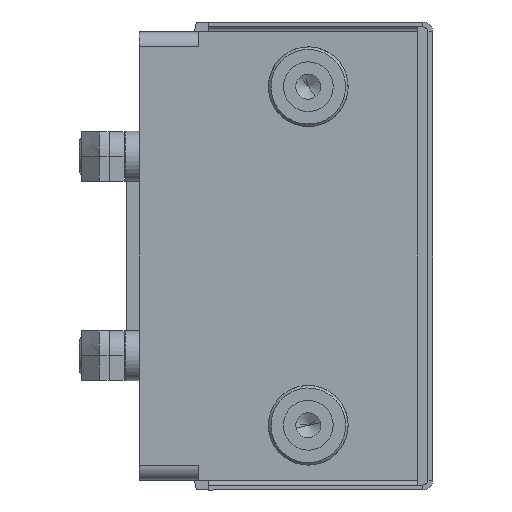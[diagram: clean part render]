
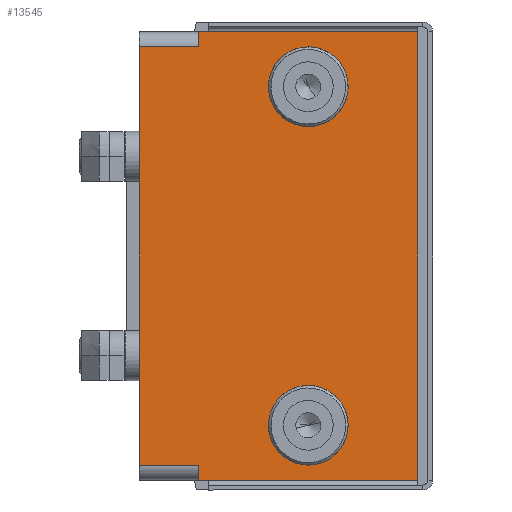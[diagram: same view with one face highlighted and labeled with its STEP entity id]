
A CAD part, front view. The second image highlights one B-rep face of the part: STEP entity #13545.
In plain terms, the highlighted planar face has unit normal (0, -1, 0).
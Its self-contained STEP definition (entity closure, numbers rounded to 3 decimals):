
#16 = DIRECTION ( 'NONE',  ( 0., -1., 0. ) ) ;
#414 = EDGE_CURVE ( 'NONE', #2588, #12712, #8567, .T. ) ;
#461 = CARTESIAN_POINT ( 'NONE',  ( 34., -49.4, 41.615 ) ) ;
#937 = DIRECTION ( 'NONE',  ( 0., 0., 1. ) ) ;
#1130 = CARTESIAN_POINT ( 'NONE',  ( 12., -49.4, 41.615 ) ) ;
#1143 = DIRECTION ( 'NONE',  ( -1., 0., 0. ) ) ;
#1320 = DIRECTION ( 'NONE',  ( 0., 1., 0. ) ) ;
#1339 = EDGE_CURVE ( 'NONE', #19466, #25257, #23126, .T. ) ;
#1584 = EDGE_CURVE ( 'NONE', #26040, #2588, #6938, .T. ) ;
#1737 = CARTESIAN_POINT ( 'NONE',  ( 12., -49.4, -45.385 ) ) ;
#1854 = DIRECTION ( 'NONE',  ( 0., -1., 0. ) ) ;
#1922 = ORIENTED_EDGE ( 'NONE', *, *, #14772, .T. ) ;
#2132 = CARTESIAN_POINT ( 'NONE',  ( 34., -49.4, -34.385 ) ) ;
#2588 = VERTEX_POINT ( 'NONE', #1130 ) ;
#3472 = LINE ( 'NONE', #1737, #14468 ) ;
#3769 = DIRECTION ( 'NONE',  ( 1., 0., 0. ) ) ;
#3787 = AXIS2_PLACEMENT_3D ( 'NONE', #6900, #21347, #8978 ) ;
#3918 = DIRECTION ( 'NONE',  ( 1., 0., 0. ) ) ;
#4159 = CARTESIAN_POINT ( 'NONE',  ( 12., -49.4, 44.615 ) ) ;
#4183 = DIRECTION ( 'NONE',  ( 0., 0., 1. ) ) ;
#4214 = CIRCLE ( 'NONE', #16046, 8. ) ;
#4526 = EDGE_CURVE ( 'NONE', #25989, #8234, #17114, .T. ) ;
#4624 = CARTESIAN_POINT ( 'NONE',  ( 12., -49.4, 44.615 ) ) ;
#5443 = FACE_BOUND ( 'NONE', #23056, .T. ) ;
#5976 = VECTOR ( 'NONE', #20853, 1000. ) ;
#6295 = CARTESIAN_POINT ( 'NONE',  ( 12., -49.4, 44.615 ) ) ;
#6361 = CARTESIAN_POINT ( 'NONE',  ( 0., -49.4, 41.615 ) ) ;
#6900 = CARTESIAN_POINT ( 'NONE',  ( 34., -49.4, 33.615 ) ) ;
#6938 = LINE ( 'NONE', #14827, #17926 ) ;
#7878 = EDGE_LOOP ( 'NONE', ( #20226, #1922, #8601, #9827, #13895, #21003, #12043, #17876 ) ) ;
#7993 = CARTESIAN_POINT ( 'NONE',  ( 0., -49.4, -42.385 ) ) ;
#8150 = VECTOR ( 'NONE', #14463, 1000. ) ;
#8234 = VERTEX_POINT ( 'NONE', #10346 ) ;
#8359 = AXIS2_PLACEMENT_3D ( 'NONE', #2132, #16553, #4183 ) ;
#8394 = CARTESIAN_POINT ( 'NONE',  ( 12., -49.4, -45.385 ) ) ;
#8567 = LINE ( 'NONE', #9289, #18902 ) ;
#8601 = ORIENTED_EDGE ( 'NONE', *, *, #26695, .T. ) ;
#8978 = DIRECTION ( 'NONE',  ( 0., 0., 1. ) ) ;
#9201 = VERTEX_POINT ( 'NONE', #8394 ) ;
#9289 = CARTESIAN_POINT ( 'NONE',  ( 0., -49.4, 41.615 ) ) ;
#9367 = PLANE ( 'NONE',  #20687 ) ;
#9450 = CARTESIAN_POINT ( 'NONE',  ( 0., -49.4, -45.385 ) ) ;
#9506 = VECTOR ( 'NONE', #3918, 1000. ) ;
#9628 = CARTESIAN_POINT ( 'NONE',  ( 0., -49.4, -42.385 ) ) ;
#9669 = VERTEX_POINT ( 'NONE', #22457 ) ;
#9740 = CIRCLE ( 'NONE', #17633, 8. ) ;
#9827 = ORIENTED_EDGE ( 'NONE', *, *, #1339, .T. ) ;
#10203 = EDGE_CURVE ( 'NONE', #9669, #18533, #19156, .T. ) ;
#10346 = CARTESIAN_POINT ( 'NONE',  ( 34., -49.4, 25.615 ) ) ;
#10751 = CARTESIAN_POINT ( 'NONE',  ( 12., -49.4, -42.385 ) ) ;
#10921 = FACE_OUTER_BOUND ( 'NONE', #7878, .T. ) ;
#11429 = ORIENTED_EDGE ( 'NONE', *, *, #4526, .F. ) ;
#12043 = ORIENTED_EDGE ( 'NONE', *, *, #414, .T. ) ;
#12298 = CARTESIAN_POINT ( 'NONE',  ( 34., -49.4, 33.615 ) ) ;
#12712 = VERTEX_POINT ( 'NONE', #6361 ) ;
#13545 = ADVANCED_FACE ( 'NONE', ( #10921, #5443, #15777 ), #9367, .F. ) ;
#13895 = ORIENTED_EDGE ( 'NONE', *, *, #18456, .T. ) ;
#14181 = CARTESIAN_POINT ( 'NONE',  ( 34., -49.4, -34.385 ) ) ;
#14389 = DIRECTION ( 'NONE',  ( 0., 0., 1. ) ) ;
#14463 = DIRECTION ( 'NONE',  ( 0., 0., -1. ) ) ;
#14468 = VECTOR ( 'NONE', #3769, 1000. ) ;
#14527 = DIRECTION ( 'NONE',  ( -1., 0., 0. ) ) ;
#14772 = EDGE_CURVE ( 'NONE', #15913, #9201, #24613, .T. ) ;
#14791 = DIRECTION ( 'NONE',  ( 0., 0., -1. ) ) ;
#14827 = CARTESIAN_POINT ( 'NONE',  ( 12., -49.4, 44.615 ) ) ;
#15697 = DIRECTION ( 'NONE',  ( -1., 0., 0. ) ) ;
#15765 = LINE ( 'NONE', #6295, #21251 ) ;
#15777 = FACE_BOUND ( 'NONE', #17535, .T. ) ;
#15913 = VERTEX_POINT ( 'NONE', #10751 ) ;
#16046 = AXIS2_PLACEMENT_3D ( 'NONE', #12298, #16, #14389 ) ;
#16253 = DIRECTION ( 'NONE',  ( 0., 0., 1. ) ) ;
#16553 = DIRECTION ( 'NONE',  ( 0., -1., 0. ) ) ;
#16924 = EDGE_CURVE ( 'NONE', #8234, #25989, #4214, .T. ) ;
#17114 = CIRCLE ( 'NONE', #3787, 8. ) ;
#17535 = EDGE_LOOP ( 'NONE', ( #17689, #20508 ) ) ;
#17633 = AXIS2_PLACEMENT_3D ( 'NONE', #14181, #1854, #16253 ) ;
#17689 = ORIENTED_EDGE ( 'NONE', *, *, #10203, .F. ) ;
#17876 = ORIENTED_EDGE ( 'NONE', *, *, #20415, .F. ) ;
#17926 = VECTOR ( 'NONE', #14791, 1000. ) ;
#18142 = ORIENTED_EDGE ( 'NONE', *, *, #16924, .F. ) ;
#18456 = EDGE_CURVE ( 'NONE', #25257, #26040, #15765, .T. ) ;
#18533 = VERTEX_POINT ( 'NONE', #20998 ) ;
#18902 = VECTOR ( 'NONE', #1143, 1000. ) ;
#19156 = CIRCLE ( 'NONE', #8359, 8. ) ;
#19466 = VERTEX_POINT ( 'NONE', #22218 ) ;
#19535 = LINE ( 'NONE', #25572, #24391 ) ;
#20226 = ORIENTED_EDGE ( 'NONE', *, *, #20609, .T. ) ;
#20415 = EDGE_CURVE ( 'NONE', #24192, #12712, #19535, .T. ) ;
#20508 = ORIENTED_EDGE ( 'NONE', *, *, #22665, .F. ) ;
#20609 = EDGE_CURVE ( 'NONE', #24192, #15913, #25978, .T. ) ;
#20687 = AXIS2_PLACEMENT_3D ( 'NONE', #9450, #1320, #15697 ) ;
#20722 = CARTESIAN_POINT ( 'NONE',  ( 56., -49.4, 44.615 ) ) ;
#20853 = DIRECTION ( 'NONE',  ( 0., 0., 1. ) ) ;
#20998 = CARTESIAN_POINT ( 'NONE',  ( 34., -49.4, -42.385 ) ) ;
#21003 = ORIENTED_EDGE ( 'NONE', *, *, #1584, .T. ) ;
#21251 = VECTOR ( 'NONE', #14527, 1000. ) ;
#21347 = DIRECTION ( 'NONE',  ( 0., -1., 0. ) ) ;
#22218 = CARTESIAN_POINT ( 'NONE',  ( 56., -49.4, -45.385 ) ) ;
#22457 = CARTESIAN_POINT ( 'NONE',  ( 34., -49.4, -26.385 ) ) ;
#22665 = EDGE_CURVE ( 'NONE', #18533, #9669, #9740, .T. ) ;
#23056 = EDGE_LOOP ( 'NONE', ( #11429, #18142 ) ) ;
#23126 = LINE ( 'NONE', #20722, #5976 ) ;
#24192 = VERTEX_POINT ( 'NONE', #9628 ) ;
#24391 = VECTOR ( 'NONE', #937, 1000. ) ;
#24613 = LINE ( 'NONE', #4159, #8150 ) ;
#25257 = VERTEX_POINT ( 'NONE', #25677 ) ;
#25572 = CARTESIAN_POINT ( 'NONE',  ( 0., -49.4, -45.385 ) ) ;
#25677 = CARTESIAN_POINT ( 'NONE',  ( 56., -49.4, 44.615 ) ) ;
#25978 = LINE ( 'NONE', #7993, #9506 ) ;
#25989 = VERTEX_POINT ( 'NONE', #461 ) ;
#26040 = VERTEX_POINT ( 'NONE', #4624 ) ;
#26695 = EDGE_CURVE ( 'NONE', #9201, #19466, #3472, .T. ) ;
